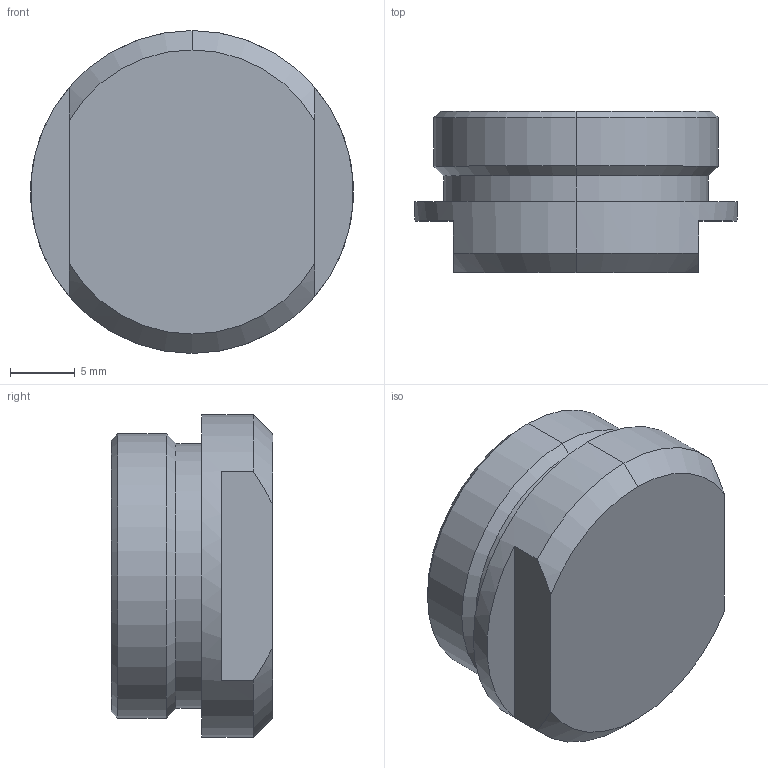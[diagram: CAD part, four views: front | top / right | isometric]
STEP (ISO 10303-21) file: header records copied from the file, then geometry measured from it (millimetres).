
FILE_DESCRIPTION (( 'STEP AP214' ), '1' );
FILE_NAME ('ÏÄÀÐ.712713.001 Çàãëóøêà îáùàÿ.STEP', '2025-05-06T06:06:08', ( '' ), ( '' ), 'SwSTEP 2.0', 'SolidWorks 2022', '' );
FILE_SCHEMA (( 'AUTOMOTIVE_DESIGN' ));
Length unit declared in the file: millimetre
Products named in the file (1): ПДАР.712713.001 Заглушка общая
Bounding box: 25 x 12.5 x 25 mm (x, y, z)
Volume: 4212.9 mm3; surface area: 2143.9 mm2
Topology: 1 solids, 1 shells, 24 faces, 54 edges, 32 vertices
Faces by surface type: cone 9, cylinder 8, plane 7
Entity records: 717 total; most frequent: DIRECTION 123, CARTESIAN_POINT 121, ORIENTED_EDGE 104, EDGE_CURVE 52, AXIS2_PLACEMENT_3D 50, VERTEX_POINT 32, EDGE_LOOP 26, CIRCLE 25
